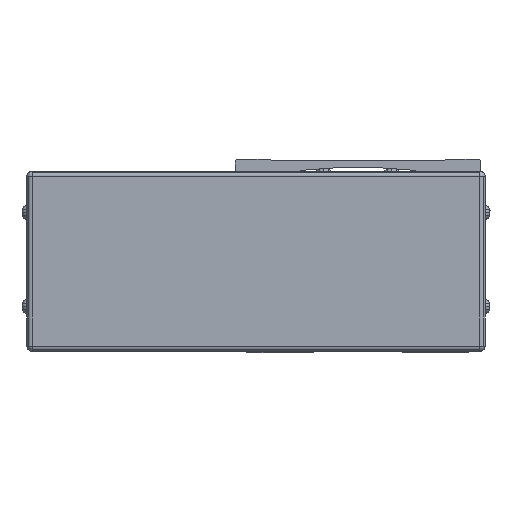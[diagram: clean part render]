
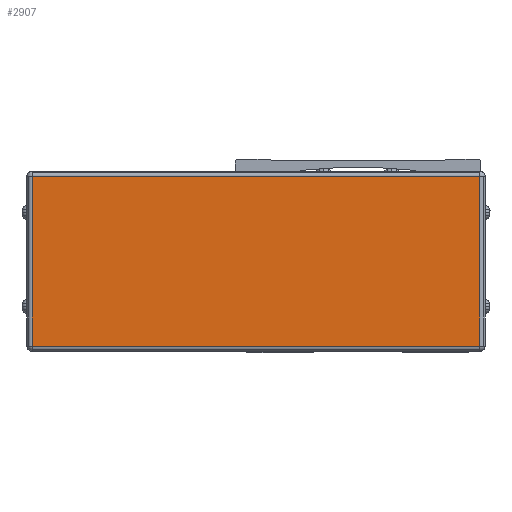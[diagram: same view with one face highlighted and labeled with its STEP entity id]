
A CAD part, front view. The second image highlights one B-rep face of the part: STEP entity #2907.
In plain terms, the highlighted planar face has unit normal (0, -1, 0).
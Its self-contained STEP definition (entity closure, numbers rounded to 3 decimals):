
#2907=ADVANCED_FACE('',(#7348),#7349,.F.);
#7348=FACE_OUTER_BOUND('',#13671,.T.);
#7349=PLANE('',#13672);
#13671=EDGE_LOOP('',(#23268,#23269,#23270,#23271));
#13672=AXIS2_PLACEMENT_3D('',#23272,#23273,#23274);
#23268=ORIENTED_EDGE('',*,*,#38456,.T.);
#23269=ORIENTED_EDGE('',*,*,#38999,.T.);
#23270=ORIENTED_EDGE('',*,*,#40073,.T.);
#23271=ORIENTED_EDGE('',*,*,#40074,.T.);
#23272=CARTESIAN_POINT('',(-39.,-238.778,-42.5));
#23273=DIRECTION('',(0.0,1.0,-0.0));
#23274=DIRECTION('',(-1.0,0.0,0.0));
#38456=EDGE_CURVE('',#45809,#45807,#45810,.T.);
#38999=EDGE_CURVE('',#45807,#46773,#46775,.T.);
#40073=EDGE_CURVE('',#46773,#48588,#48589,.T.);
#40074=EDGE_CURVE('',#48588,#45809,#48590,.T.);
#45807=VERTEX_POINT('',#56494);
#45809=VERTEX_POINT('',#56496);
#45810=LINE('',#56497,#56498);
#46773=VERTEX_POINT('',#58076);
#46775=LINE('',#58078,#58079);
#48588=VERTEX_POINT('',#60685);
#48589=LINE('',#60686,#60687);
#48590=LINE('',#60688,#60689);
#56494=CARTESIAN_POINT('',(46.7,-238.778,-40.5));
#56496=CARTESIAN_POINT('',(-124.7,-238.778,-40.5));
#56497=CARTESIAN_POINT('',(-39.,-238.778,-40.5));
#56498=VECTOR('',#71823,10.0);
#58076=CARTESIAN_POINT('',(46.7,-238.778,24.5));
#58078=CARTESIAN_POINT('',(46.7,-238.778,-42.5));
#58079=VECTOR('',#72475,10.0);
#60685=CARTESIAN_POINT('',(-124.7,-238.778,24.5));
#60686=CARTESIAN_POINT('',(-39.,-238.778,24.5));
#60687=VECTOR('',#73873,10.0);
#60688=CARTESIAN_POINT('',(-124.7,-238.778,-42.5));
#60689=VECTOR('',#73874,10.0);
#71823=DIRECTION('',(1.0,0.0,0.0));
#72475=DIRECTION('',(0.0,0.0,1.0));
#73873=DIRECTION('',(-1.0,0.0,0.0));
#73874=DIRECTION('',(-0.0,0.0,-1.0));
